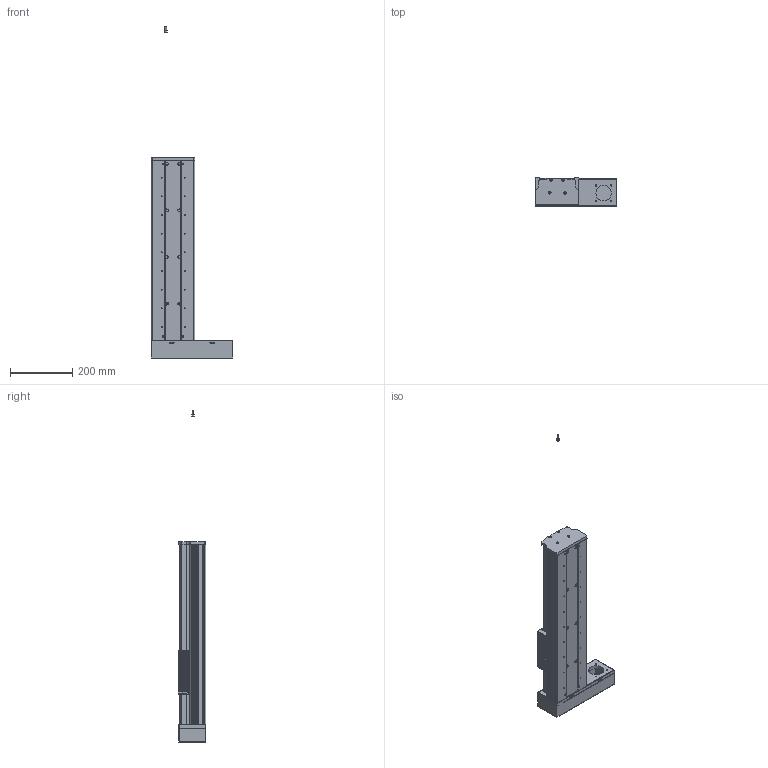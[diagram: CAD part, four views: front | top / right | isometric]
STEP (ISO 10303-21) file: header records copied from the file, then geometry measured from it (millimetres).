
FILE_DESCRIPTION (( 'STEP AP203' ), '1' );
FILE_NAME ('CF140衵殏350俴最.STEP', '2020-06-13T01:13:57', ( 'Micorosoft' ), ( 'Micorosoft' ), 'SwSTEP 2.0', 'SolidWorks 2016', '' );
FILE_SCHEMA (( 'CONFIG_CONTROL_DESIGN' ));
Length unit declared in the file: millimetre
Products named in the file (13): CF120B-20佪裝; 15賑輸; 140B酘殏殏萇儂啣; 15絳寢; 奻狟殏肮祭謫欶; CF140蹟譫釱; CF140衵殏350俴最; CF140賑雄啣; CF140盓傅釱; hexagon socket head cap screws gb_GB_FASTENER_SCREWS_HSHCS M5X16-N; CF140裔啣; CF140萇儂啣; 菁釱
Assembly tree (16 placements, depth 2):
  CF140衵殏350俴最
    菁釱
    15賑輸  x4
    15絳寢  x2
    CF140蹟譫釱
    CF140賑雄啣
    CF140盓傅釱
    hexagon socket head cap screws gb_GB_FASTENER_SCREWS_HSHCS M5X16-N
    CF140裔啣
    CF140萇儂啣
    CF120B-20佪裝
    140B酘殏殏萇儂啣
    奻狟殏肮祭謫欶
Bounding box: 262 x 90 x 1068.39 mm (x, y, z)
Volume: 3192531 mm3; surface area: 1203761.6 mm2
Topology: 16 solids, 16 shells, 1170 faces, 3229 edges, 2077 vertices
Faces by surface type: cylinder 613, plane 460, cone 95, torus 2
Entity records: 36187 total; most frequent: CARTESIAN_POINT 7092, DIRECTION 5949, ORIENTED_EDGE 5678, EDGE_CURVE 2839, AXIS2_PLACEMENT_3D 2190, VERTEX_POINT 1877, LINE 1569, VECTOR 1569
